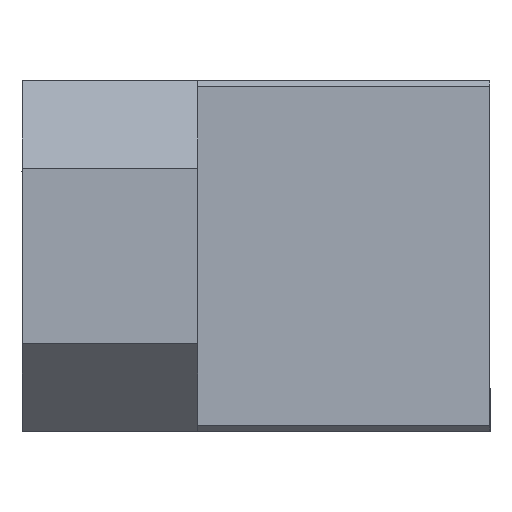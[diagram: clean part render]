
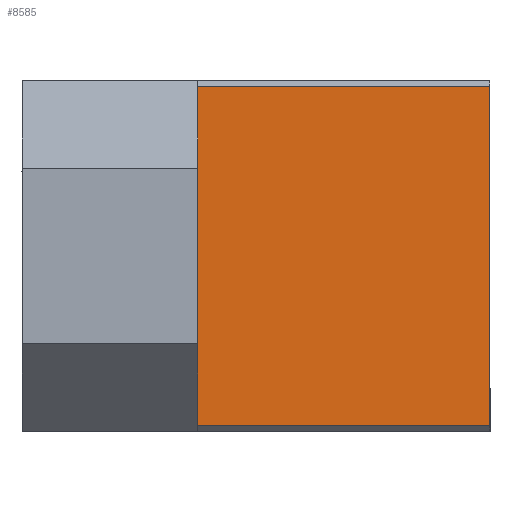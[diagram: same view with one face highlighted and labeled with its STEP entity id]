
A CAD part, left-side view. The second image highlights one B-rep face of the part: STEP entity #8585.
In plain terms, the highlighted planar face has unit normal (-1, 0, 0).
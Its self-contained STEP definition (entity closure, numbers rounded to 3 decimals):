
#110 = CARTESIAN_POINT ( 'NONE',  ( 10.692, 21.699, 5.8 ) ) ;
#227 = VERTEX_POINT ( 'NONE', #4015 ) ;
#229 = CARTESIAN_POINT ( 'NONE',  ( 10.692, 26.699, 5.8 ) ) ;
#238 = CARTESIAN_POINT ( 'NONE',  ( 10.692, 26.699, -5.8 ) ) ;
#472 = LINE ( 'NONE', #110, #5012 ) ;
#574 = AXIS2_PLACEMENT_3D ( 'NONE', #8947, #3519, #9891 ) ;
#1244 = VECTOR ( 'NONE', #4635, 1000. ) ;
#1400 = LINE ( 'NONE', #8857, #10798 ) ;
#1461 = VERTEX_POINT ( 'NONE', #229 ) ;
#1939 = EDGE_CURVE ( 'NONE', #10554, #227, #5026, .T. ) ;
#3176 = CARTESIAN_POINT ( 'NONE',  ( 10.692, 16.699, 5.8 ) ) ;
#3519 = DIRECTION ( 'NONE',  ( 1., 0., 0. ) ) ;
#3658 = CARTESIAN_POINT ( 'NONE',  ( 10.692, 16.699, 0. ) ) ;
#4015 = CARTESIAN_POINT ( 'NONE',  ( 10.692, 16.699, -5.8 ) ) ;
#4382 = PLANE ( 'NONE',  #574 ) ;
#4635 = DIRECTION ( 'NONE',  ( 0., 1., 0. ) ) ;
#4720 = VECTOR ( 'NONE', #10944, 1000. ) ;
#4790 = EDGE_CURVE ( 'NONE', #1461, #5983, #1400, .T. ) ;
#4843 = EDGE_LOOP ( 'NONE', ( #10284, #5637, #9939, #9152 ) ) ;
#5012 = VECTOR ( 'NONE', #5568, 1000. ) ;
#5026 = LINE ( 'NONE', #3658, #4720 ) ;
#5568 = DIRECTION ( 'NONE',  ( 0., 1., 0. ) ) ;
#5637 = ORIENTED_EDGE ( 'NONE', *, *, #4790, .T. ) ;
#5983 = VERTEX_POINT ( 'NONE', #238 ) ;
#7158 = FACE_OUTER_BOUND ( 'NONE', #4843, .T. ) ;
#8585 = ADVANCED_FACE ( 'NONE', ( #7158 ), #4382, .F. ) ;
#8728 = EDGE_CURVE ( 'NONE', #227, #5983, #10632, .T. ) ;
#8857 = CARTESIAN_POINT ( 'NONE',  ( 10.692, 26.699, 0. ) ) ;
#8947 = CARTESIAN_POINT ( 'NONE',  ( 10.692, 16.699, 5.8 ) ) ;
#9152 = ORIENTED_EDGE ( 'NONE', *, *, #1939, .F. ) ;
#9178 = CARTESIAN_POINT ( 'NONE',  ( 10.692, 21.699, -5.8 ) ) ;
#9891 = DIRECTION ( 'NONE',  ( 0., 0., -1. ) ) ;
#9939 = ORIENTED_EDGE ( 'NONE', *, *, #8728, .F. ) ;
#10284 = ORIENTED_EDGE ( 'NONE', *, *, #10852, .T. ) ;
#10554 = VERTEX_POINT ( 'NONE', #3176 ) ;
#10632 = LINE ( 'NONE', #9178, #1244 ) ;
#10798 = VECTOR ( 'NONE', #11615, 1000. ) ;
#10852 = EDGE_CURVE ( 'NONE', #10554, #1461, #472, .T. ) ;
#10944 = DIRECTION ( 'NONE',  ( 0., 0., -1. ) ) ;
#11615 = DIRECTION ( 'NONE',  ( 0., 0., -1. ) ) ;
